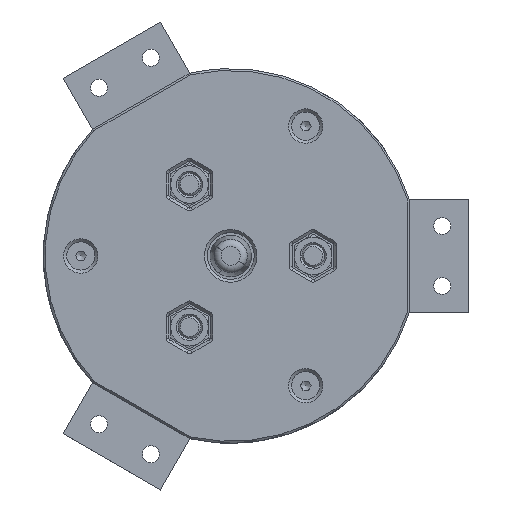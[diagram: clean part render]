
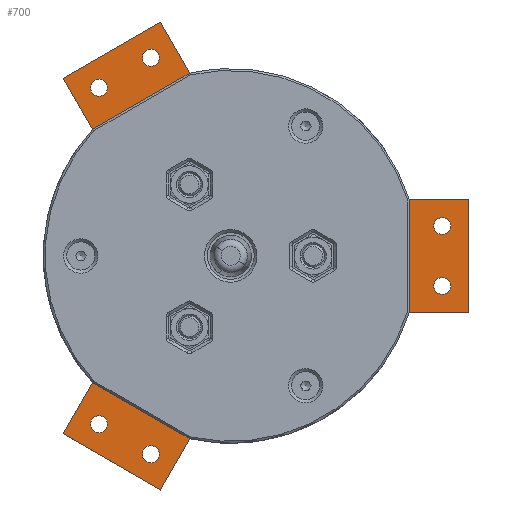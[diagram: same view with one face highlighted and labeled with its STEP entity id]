
A CAD part, top view. The second image highlights one B-rep face of the part: STEP entity #700.
In plain terms, the highlighted planar face has unit normal (0, 0, 1).
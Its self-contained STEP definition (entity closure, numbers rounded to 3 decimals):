
#62=CARTESIAN_POINT('',(-10.858,48.807,6.));
#63=VERTEX_POINT('',#62);
#70=CARTESIAN_POINT('',(47.697,15.,6.));
#71=VERTEX_POINT('',#70);
#72=CARTESIAN_POINT('',(0.,0.,6.));
#73=DIRECTION('',(0.954,0.3,0.));
#74=DIRECTION('',(0.,0.,1.));
#75=AXIS2_PLACEMENT_3D('',#72,#74,#73);
#76=CIRCLE('',#75,50.);
#77=EDGE_CURVE('',#71,#63,#76,.T.);
#101=CARTESIAN_POINT('',(-18.735,62.449,6.));
#102=VERTEX_POINT('',#101);
#109=CARTESIAN_POINT('',(-10.858,48.807,6.));
#110=DIRECTION('',(-0.5,0.866,0.));
#111=VECTOR('',#110,15.753);
#112=LINE('',#109,#111);
#113=EDGE_CURVE('',#63,#102,#112,.T.);
#132=CARTESIAN_POINT('',(-44.715,47.449,6.));
#133=VERTEX_POINT('',#132);
#140=CARTESIAN_POINT('',(-18.735,62.449,6.));
#141=DIRECTION('',(-0.866,-0.5,0.));
#142=VECTOR('',#141,30.);
#143=LINE('',#140,#142);
#144=EDGE_CURVE('',#102,#133,#143,.T.);
#163=CARTESIAN_POINT('',(-36.839,33.807,6.));
#164=VERTEX_POINT('',#163);
#171=CARTESIAN_POINT('',(-44.715,47.449,6.));
#172=DIRECTION('',(0.5,-0.866,0.));
#173=VECTOR('',#172,15.753);
#174=LINE('',#171,#173);
#175=EDGE_CURVE('',#133,#164,#174,.T.);
#195=CARTESIAN_POINT('',(-36.839,-33.807,6.));
#196=VERTEX_POINT('',#195);
#203=CARTESIAN_POINT('',(0.,0.,6.));
#204=DIRECTION('',(-0.737,0.676,0.));
#205=DIRECTION('',(0.,0.,1.));
#206=AXIS2_PLACEMENT_3D('',#203,#205,#204);
#207=CIRCLE('',#206,50.);
#208=EDGE_CURVE('',#164,#196,#207,.T.);
#227=CARTESIAN_POINT('',(-44.715,-47.449,6.));
#228=VERTEX_POINT('',#227);
#235=CARTESIAN_POINT('',(-36.839,-33.807,6.));
#236=DIRECTION('',(-0.5,-0.866,0.));
#237=VECTOR('',#236,15.753);
#238=LINE('',#235,#237);
#239=EDGE_CURVE('',#196,#228,#238,.T.);
#258=CARTESIAN_POINT('',(-18.735,-62.449,6.));
#259=VERTEX_POINT('',#258);
#266=CARTESIAN_POINT('',(-44.715,-47.449,6.));
#267=DIRECTION('',(0.866,-0.5,0.));
#268=VECTOR('',#267,30.);
#269=LINE('',#266,#268);
#270=EDGE_CURVE('',#228,#259,#269,.T.);
#289=CARTESIAN_POINT('',(-10.858,-48.807,6.));
#290=VERTEX_POINT('',#289);
#297=CARTESIAN_POINT('',(-18.735,-62.449,6.));
#298=DIRECTION('',(0.5,0.866,0.));
#299=VECTOR('',#298,15.753);
#300=LINE('',#297,#299);
#301=EDGE_CURVE('',#259,#290,#300,.T.);
#321=CARTESIAN_POINT('',(47.697,-15.,6.));
#322=VERTEX_POINT('',#321);
#329=CARTESIAN_POINT('',(0.,0.,6.));
#330=DIRECTION('',(-0.217,-0.976,0.));
#331=DIRECTION('',(0.,0.,1.));
#332=AXIS2_PLACEMENT_3D('',#329,#331,#330);
#333=CIRCLE('',#332,50.);
#334=EDGE_CURVE('',#290,#322,#333,.T.);
#353=CARTESIAN_POINT('',(63.45,-15.,6.));
#354=VERTEX_POINT('',#353);
#361=CARTESIAN_POINT('',(47.697,-15.,6.));
#362=DIRECTION('',(1.,0.,0.));
#363=VECTOR('',#362,15.753);
#364=LINE('',#361,#363);
#365=EDGE_CURVE('',#322,#354,#364,.T.);
#384=CARTESIAN_POINT('',(63.45,15.,6.));
#385=VERTEX_POINT('',#384);
#392=CARTESIAN_POINT('',(63.45,-15.,6.));
#393=DIRECTION('',(0.,1.,0.));
#394=VECTOR('',#393,30.);
#395=LINE('',#392,#394);
#396=EDGE_CURVE('',#354,#385,#395,.T.);
#414=CARTESIAN_POINT('',(63.45,15.,6.));
#415=DIRECTION('',(-1.,0.,0.));
#416=VECTOR('',#415,15.753);
#417=LINE('',#414,#416);
#418=EDGE_CURVE('',#385,#71,#417,.T.);
#438=CARTESIAN_POINT('',(29.95,0.,6.));
#439=VERTEX_POINT('',#438);
#446=CARTESIAN_POINT('',(0.,0.,6.));
#447=DIRECTION('',(1.,0.,0.));
#448=DIRECTION('',(0.,0.,-1.));
#449=AXIS2_PLACEMENT_3D('',#446,#448,#447);
#450=CIRCLE('',#449,29.95);
#451=EDGE_CURVE('',#439,#439,#450,.T.);
#579=CARTESIAN_POINT('',(-2.207,3.207,6.));
#580=DIRECTION('',(1.,0.,0.));
#581=DIRECTION('',(0.,0.,1.));
#582=AXIS2_PLACEMENT_3D('',#579,#581,#580);
#583=PLANE('',#582);
#584=ORIENTED_EDGE('',*,*,#77,.T.);
#585=ORIENTED_EDGE('',*,*,#113,.T.);
#586=ORIENTED_EDGE('',*,*,#144,.T.);
#587=ORIENTED_EDGE('',*,*,#175,.T.);
#588=ORIENTED_EDGE('',*,*,#208,.T.);
#589=ORIENTED_EDGE('',*,*,#239,.T.);
#590=ORIENTED_EDGE('',*,*,#270,.T.);
#591=ORIENTED_EDGE('',*,*,#301,.T.);
#592=ORIENTED_EDGE('',*,*,#334,.T.);
#593=ORIENTED_EDGE('',*,*,#365,.T.);
#594=ORIENTED_EDGE('',*,*,#396,.T.);
#595=ORIENTED_EDGE('',*,*,#418,.T.);
#596=EDGE_LOOP('',(#584,#585,#586,#587,#588,#589,#590,#591,#592,#593,#594,#595));
#597=FACE_OUTER_BOUND('',#596,.T.);
#598=CARTESIAN_POINT('',(-32.903,-44.887,6.));
#599=VERTEX_POINT('',#598);
#600=CARTESIAN_POINT('',(-35.153,-44.887,6.));
#601=DIRECTION('',(1.,0.,0.));
#602=DIRECTION('',(0.,0.,-1.));
#603=AXIS2_PLACEMENT_3D('',#600,#602,#601);
#604=CIRCLE('',#603,2.25);
#605=EDGE_CURVE('',#599,#599,#604,.T.);
#606=ORIENTED_EDGE('',*,*,#605,.T.);
#607=EDGE_LOOP('',(#606));
#608=FACE_BOUND('',#607,.T.);
#609=CARTESIAN_POINT('',(-19.047,-52.887,6.));
#610=VERTEX_POINT('',#609);
#611=CARTESIAN_POINT('',(-21.297,-52.887,6.));
#612=DIRECTION('',(1.,0.,0.));
#613=DIRECTION('',(0.,0.,-1.));
#614=AXIS2_PLACEMENT_3D('',#611,#613,#612);
#615=CIRCLE('',#614,2.25);
#616=EDGE_CURVE('',#610,#610,#615,.T.);
#617=ORIENTED_EDGE('',*,*,#616,.T.);
#618=EDGE_LOOP('',(#617));
#619=FACE_BOUND('',#618,.T.);
#620=CARTESIAN_POINT('',(-19.047,52.887,6.));
#621=VERTEX_POINT('',#620);
#622=CARTESIAN_POINT('',(-21.297,52.887,6.));
#623=DIRECTION('',(1.,0.,0.));
#624=DIRECTION('',(0.,0.,-1.));
#625=AXIS2_PLACEMENT_3D('',#622,#624,#623);
#626=CIRCLE('',#625,2.25);
#627=EDGE_CURVE('',#621,#621,#626,.T.);
#628=ORIENTED_EDGE('',*,*,#627,.T.);
#629=EDGE_LOOP('',(#628));
#630=FACE_BOUND('',#629,.T.);
#631=CARTESIAN_POINT('',(-32.903,44.887,6.));
#632=VERTEX_POINT('',#631);
#633=CARTESIAN_POINT('',(-35.153,44.887,6.));
#634=DIRECTION('',(1.,0.,0.));
#635=DIRECTION('',(0.,0.,-1.));
#636=AXIS2_PLACEMENT_3D('',#633,#635,#634);
#637=CIRCLE('',#636,2.25);
#638=EDGE_CURVE('',#632,#632,#637,.T.);
#639=ORIENTED_EDGE('',*,*,#638,.T.);
#640=EDGE_LOOP('',(#639));
#641=FACE_BOUND('',#640,.T.);
#642=CARTESIAN_POINT('',(58.7,8.,6.));
#643=VERTEX_POINT('',#642);
#644=CARTESIAN_POINT('',(56.45,8.,6.));
#645=DIRECTION('',(1.,0.,0.));
#646=DIRECTION('',(0.,0.,-1.));
#647=AXIS2_PLACEMENT_3D('',#644,#646,#645);
#648=CIRCLE('',#647,2.25);
#649=EDGE_CURVE('',#643,#643,#648,.T.);
#650=ORIENTED_EDGE('',*,*,#649,.T.);
#651=EDGE_LOOP('',(#650));
#652=FACE_BOUND('',#651,.T.);
#653=CARTESIAN_POINT('',(58.7,-8.,6.));
#654=VERTEX_POINT('',#653);
#655=CARTESIAN_POINT('',(56.45,-8.,6.));
#656=DIRECTION('',(1.,0.,0.));
#657=DIRECTION('',(0.,0.,-1.));
#658=AXIS2_PLACEMENT_3D('',#655,#657,#656);
#659=CIRCLE('',#658,2.25);
#660=EDGE_CURVE('',#654,#654,#659,.T.);
#661=ORIENTED_EDGE('',*,*,#660,.T.);
#662=EDGE_LOOP('',(#661));
#663=FACE_BOUND('',#662,.T.);
#664=ORIENTED_EDGE('',*,*,#451,.T.);
#665=EDGE_LOOP('',(#664));
#666=FACE_BOUND('',#665,.T.);
#667=CARTESIAN_POINT('',(21.65,34.641,6.));
#668=VERTEX_POINT('',#667);
#669=CARTESIAN_POINT('',(20.,34.641,6.));
#670=DIRECTION('',(1.,0.,0.));
#671=DIRECTION('',(0.,0.,1.));
#672=AXIS2_PLACEMENT_3D('',#669,#671,#670);
#673=CIRCLE('',#672,1.65);
#674=EDGE_CURVE('',#668,#668,#673,.T.);
#675=ORIENTED_EDGE('',*,*,#674,.F.);
#676=EDGE_LOOP('',(#675));
#677=FACE_BOUND('',#676,.T.);
#678=CARTESIAN_POINT('',(-38.35,0.,6.));
#679=VERTEX_POINT('',#678);
#680=CARTESIAN_POINT('',(-40.,0.,6.));
#681=DIRECTION('',(1.,0.,0.));
#682=DIRECTION('',(0.,0.,1.));
#683=AXIS2_PLACEMENT_3D('',#680,#682,#681);
#684=CIRCLE('',#683,1.65);
#685=EDGE_CURVE('',#679,#679,#684,.T.);
#686=ORIENTED_EDGE('',*,*,#685,.F.);
#687=EDGE_LOOP('',(#686));
#688=FACE_BOUND('',#687,.T.);
#689=CARTESIAN_POINT('',(21.65,-34.641,6.));
#690=VERTEX_POINT('',#689);
#691=CARTESIAN_POINT('',(20.,-34.641,6.));
#692=DIRECTION('',(1.,0.,0.));
#693=DIRECTION('',(0.,0.,1.));
#694=AXIS2_PLACEMENT_3D('',#691,#693,#692);
#695=CIRCLE('',#694,1.65);
#696=EDGE_CURVE('',#690,#690,#695,.T.);
#697=ORIENTED_EDGE('',*,*,#696,.F.);
#698=EDGE_LOOP('',(#697));
#699=FACE_BOUND('',#698,.T.);
#700=ADVANCED_FACE('',(#597,#608,#619,#630,#641,#652,#663,#666,#677,#688,#699),#583,.T.);
